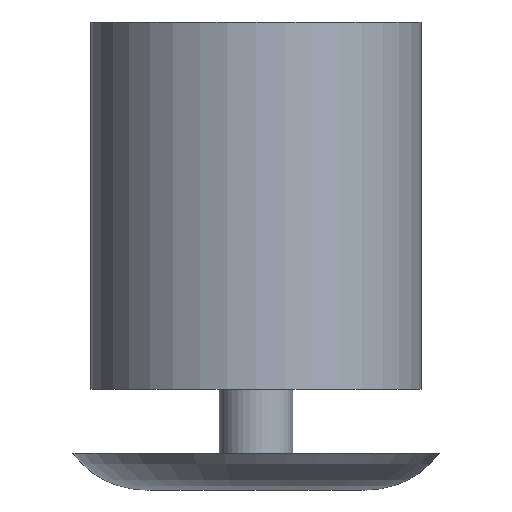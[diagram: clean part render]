
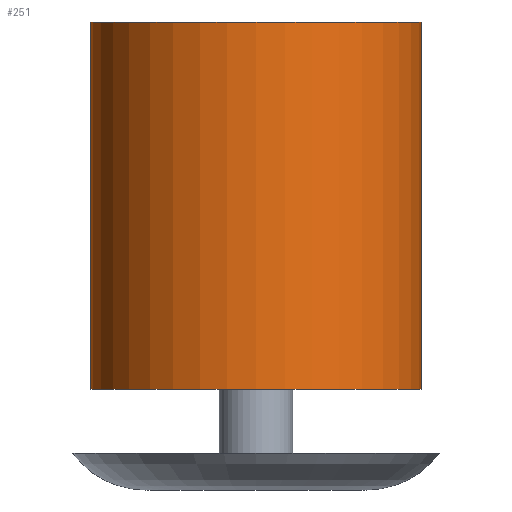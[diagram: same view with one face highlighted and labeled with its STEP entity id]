
A CAD part, front view. The second image highlights one B-rep face of the part: STEP entity #251.
In plain terms, the highlighted cylindrical face has radius 9 mm (diameter 18 mm), a partial arc.
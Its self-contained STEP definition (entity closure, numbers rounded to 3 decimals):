
#8 = CARTESIAN_POINT ( 'NONE',  ( 0., 0., 20. ) ) ;
#27 = AXIS2_PLACEMENT_3D ( 'NONE', #8, #239, #35 ) ;
#30 = CARTESIAN_POINT ( 'NONE',  ( -9., 0., 0. ) ) ;
#35 = DIRECTION ( 'NONE',  ( -1., 0., 0. ) ) ;
#38 = CIRCLE ( 'NONE', #258, 9. ) ;
#41 = CARTESIAN_POINT ( 'NONE',  ( 0., 0., 0. ) ) ;
#42 = VERTEX_POINT ( 'NONE', #112 ) ;
#45 = LINE ( 'NONE', #326, #347 ) ;
#46 = EDGE_CURVE ( 'NONE', #42, #332, #96, .T. ) ;
#48 = CARTESIAN_POINT ( 'NONE',  ( 9., 0., 20. ) ) ;
#64 = FACE_OUTER_BOUND ( 'NONE', #103, .T. ) ;
#71 = CARTESIAN_POINT ( 'NONE',  ( 9., 0., 0. ) ) ;
#82 = DIRECTION ( 'NONE',  ( 0., 0., -1. ) ) ;
#84 = VERTEX_POINT ( 'NONE', #30 ) ;
#89 = CARTESIAN_POINT ( 'NONE',  ( -9., 0., 20. ) ) ;
#96 = LINE ( 'NONE', #48, #161 ) ;
#97 = DIRECTION ( 'NONE',  ( 0., 0., -1. ) ) ;
#103 = EDGE_LOOP ( 'NONE', ( #195, #204, #308, #366 ) ) ;
#105 = EDGE_CURVE ( 'NONE', #120, #42, #108, .T. ) ;
#108 = CIRCLE ( 'NONE', #374, 9. ) ;
#112 = CARTESIAN_POINT ( 'NONE',  ( 9., 0., 20. ) ) ;
#120 = VERTEX_POINT ( 'NONE', #89 ) ;
#143 = CYLINDRICAL_SURFACE ( 'NONE', #27, 9. ) ;
#161 = VECTOR ( 'NONE', #82, 1000. ) ;
#168 = EDGE_CURVE ( 'NONE', #120, #84, #45, .T. ) ;
#187 = DIRECTION ( 'NONE',  ( 1., 0., 0. ) ) ;
#195 = ORIENTED_EDGE ( 'NONE', *, *, #46, .F. ) ;
#200 = CARTESIAN_POINT ( 'NONE',  ( 0., 0., 20. ) ) ;
#204 = ORIENTED_EDGE ( 'NONE', *, *, #105, .F. ) ;
#235 = DIRECTION ( 'NONE',  ( 1., 0., 0. ) ) ;
#239 = DIRECTION ( 'NONE',  ( 0., 0., -1. ) ) ;
#251 = ADVANCED_FACE ( 'NONE', ( #64 ), #143, .T. ) ;
#258 = AXIS2_PLACEMENT_3D ( 'NONE', #41, #300, #187 ) ;
#300 = DIRECTION ( 'NONE',  ( 0., 0., 1. ) ) ;
#308 = ORIENTED_EDGE ( 'NONE', *, *, #168, .T. ) ;
#320 = EDGE_CURVE ( 'NONE', #84, #332, #38, .T. ) ;
#326 = CARTESIAN_POINT ( 'NONE',  ( -9., 0., 20. ) ) ;
#332 = VERTEX_POINT ( 'NONE', #71 ) ;
#347 = VECTOR ( 'NONE', #97, 1000. ) ;
#354 = DIRECTION ( 'NONE',  ( 0., 0., 1. ) ) ;
#366 = ORIENTED_EDGE ( 'NONE', *, *, #320, .T. ) ;
#374 = AXIS2_PLACEMENT_3D ( 'NONE', #200, #354, #235 ) ;
